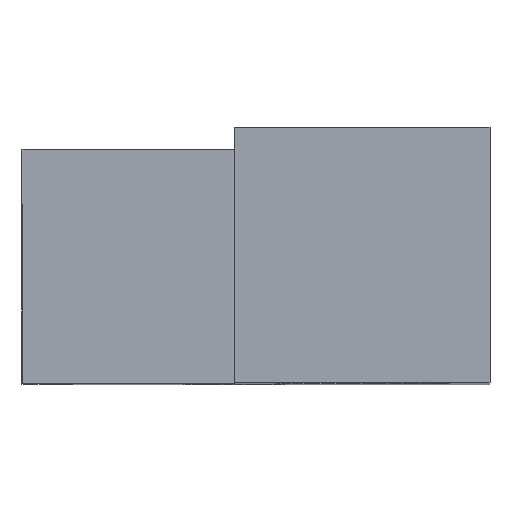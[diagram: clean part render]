
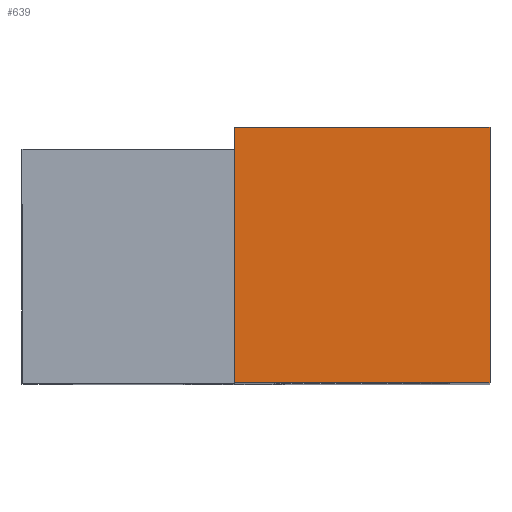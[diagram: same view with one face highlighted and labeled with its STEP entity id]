
A CAD part, top view. The second image highlights one B-rep face of the part: STEP entity #639.
In plain terms, the highlighted planar face has unit normal (0, 0, 1).
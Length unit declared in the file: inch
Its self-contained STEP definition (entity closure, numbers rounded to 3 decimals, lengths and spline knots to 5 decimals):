
#15 = LINE ( 'NONE', #470, #250 ) ;
#56 = CARTESIAN_POINT ( 'NONE',  ( -0.3761, 0.375, 1.16833 ) ) ;
#68 = CARTESIAN_POINT ( 'NONE',  ( -1.0636, 0.375, 1.16833 ) ) ;
#69 = DIRECTION ( 'NONE',  ( 1., 0., 0. ) ) ;
#136 = EDGE_CURVE ( 'NONE', #304, #590, #269, .T. ) ;
#149 = EDGE_CURVE ( 'NONE', #286, #577, #15, .T. ) ;
#179 = PLANE ( 'NONE',  #517 ) ;
#188 = ORIENTED_EDGE ( 'NONE', *, *, #136, .F. ) ;
#198 = CARTESIAN_POINT ( 'NONE',  ( -0.3761, 0.375, 1.16833 ) ) ;
#209 = CARTESIAN_POINT ( 'NONE',  ( -0.7511, 0.375, 1.16833 ) ) ;
#223 = FACE_OUTER_BOUND ( 'NONE', #457, .T. ) ;
#232 = EDGE_CURVE ( 'NONE', #577, #304, #414, .T. ) ;
#235 = DIRECTION ( 'NONE',  ( 0., 0., -1. ) ) ;
#245 = VECTOR ( 'NONE', #546, 39.37008 ) ;
#250 = VECTOR ( 'NONE', #477, 39.37008 ) ;
#269 = LINE ( 'NONE', #56, #323 ) ;
#286 = VERTEX_POINT ( 'NONE', #554 ) ;
#304 = VERTEX_POINT ( 'NONE', #198 ) ;
#323 = VECTOR ( 'NONE', #464, 39.37008 ) ;
#387 = CARTESIAN_POINT ( 'NONE',  ( -1.0636, 0.375, 1.16833 ) ) ;
#408 = ORIENTED_EDGE ( 'NONE', *, *, #149, .F. ) ;
#414 = LINE ( 'NONE', #68, #245 ) ;
#430 = ORIENTED_EDGE ( 'NONE', *, *, #232, .F. ) ;
#457 = EDGE_LOOP ( 'NONE', ( #430, #408, #493, #188 ) ) ;
#464 = DIRECTION ( 'NONE',  ( 0., -1., 0. ) ) ;
#470 = CARTESIAN_POINT ( 'NONE',  ( -0.7511, 0., 1.16833 ) ) ;
#477 = DIRECTION ( 'NONE',  ( 0., 1., 0. ) ) ;
#493 = ORIENTED_EDGE ( 'NONE', *, *, #658, .T. ) ;
#517 = AXIS2_PLACEMENT_3D ( 'NONE', #387, #235, #591 ) ;
#531 = CARTESIAN_POINT ( 'NONE',  ( -0.3761, 0., 1.16833 ) ) ;
#546 = DIRECTION ( 'NONE',  ( 1., 0., 0. ) ) ;
#554 = CARTESIAN_POINT ( 'NONE',  ( -0.7511, 0., 1.16833 ) ) ;
#577 = VERTEX_POINT ( 'NONE', #209 ) ;
#582 = VECTOR ( 'NONE', #69, 39.37008 ) ;
#590 = VERTEX_POINT ( 'NONE', #531 ) ;
#591 = DIRECTION ( 'NONE',  ( -1., 0., 0. ) ) ;
#611 = LINE ( 'NONE', #638, #582 ) ;
#638 = CARTESIAN_POINT ( 'NONE',  ( -1.0636, 0., 1.16833 ) ) ;
#639 = ADVANCED_FACE ( 'NONE', ( #223 ), #179, .F. ) ;
#658 = EDGE_CURVE ( 'NONE', #286, #590, #611, .T. ) ;
